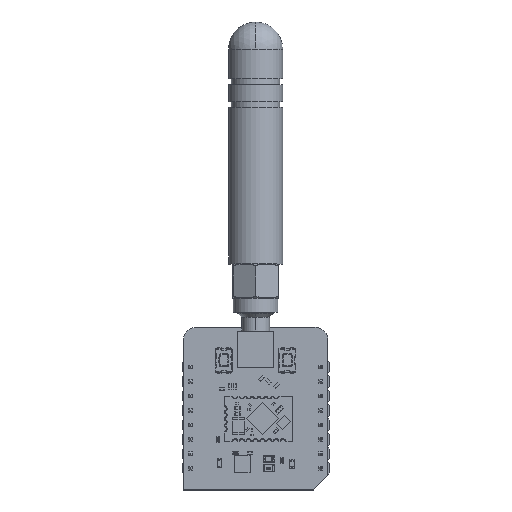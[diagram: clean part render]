
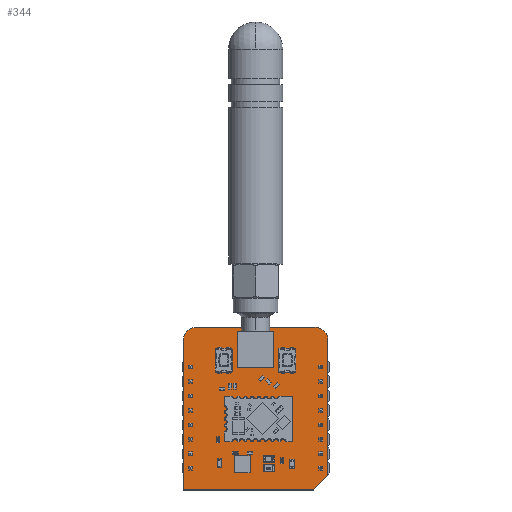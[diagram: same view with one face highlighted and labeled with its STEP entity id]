
A CAD part, top view. The second image highlights one B-rep face of the part: STEP entity #344.
In plain terms, the highlighted planar face has unit normal (0, 0, 1).
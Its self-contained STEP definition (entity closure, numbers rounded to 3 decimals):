
#115 = VERTEX_POINT('',#116);
#116 = CARTESIAN_POINT('',(-1.27,-3.81,0.));
#122 = EDGE_CURVE('',#115,#123,#125,.T.);
#123 = VERTEX_POINT('',#124);
#124 = CARTESIAN_POINT('',(-1.27,22.479,0.));
#125 = LINE('',#126,#127);
#126 = CARTESIAN_POINT('',(-1.27,-3.81,0.));
#127 = VECTOR('',#128,1.);
#128 = DIRECTION('',(0.,1.,0.));
#153 = EDGE_CURVE('',#123,#154,#156,.T.);
#154 = VERTEX_POINT('',#155);
#155 = CARTESIAN_POINT('',(1.016,24.765,0.));
#156 = CIRCLE('',#157,2.288);
#157 = AXIS2_PLACEMENT_3D('',#158,#159,#160);
#158 = CARTESIAN_POINT('',(1.018,22.477,0.));
#159 = DIRECTION('',(0.,0.,-1.));
#160 = DIRECTION('',(-1.,0.001,0.));
#186 = EDGE_CURVE('',#154,#187,#189,.T.);
#187 = VERTEX_POINT('',#188);
#188 = CARTESIAN_POINT('',(21.844,24.765,0.));
#189 = LINE('',#190,#191);
#190 = CARTESIAN_POINT('',(1.016,24.765,0.));
#191 = VECTOR('',#192,1.);
#192 = DIRECTION('',(1.,0.,0.));
#217 = EDGE_CURVE('',#187,#218,#220,.T.);
#218 = VERTEX_POINT('',#219);
#219 = CARTESIAN_POINT('',(24.13,22.479,0.));
#220 = CIRCLE('',#221,2.288);
#221 = AXIS2_PLACEMENT_3D('',#222,#223,#224);
#222 = CARTESIAN_POINT('',(21.842,22.477,0.));
#223 = DIRECTION('',(0.,0.,-1.));
#224 = DIRECTION('',(0.001,1.,0.));
#250 = EDGE_CURVE('',#218,#251,#253,.T.);
#251 = VERTEX_POINT('',#252);
#252 = CARTESIAN_POINT('',(24.13,-1.27,0.));
#253 = LINE('',#254,#255);
#254 = CARTESIAN_POINT('',(24.13,22.479,0.));
#255 = VECTOR('',#256,1.);
#256 = DIRECTION('',(0.,-1.,0.));
#281 = EDGE_CURVE('',#251,#282,#284,.T.);
#282 = VERTEX_POINT('',#283);
#283 = CARTESIAN_POINT('',(21.59,-3.81,0.));
#284 = LINE('',#285,#286);
#285 = CARTESIAN_POINT('',(24.13,-1.27,0.));
#286 = VECTOR('',#287,1.);
#287 = DIRECTION('',(-0.707,-0.707,0.));
#312 = EDGE_CURVE('',#282,#115,#313,.T.);
#313 = LINE('',#314,#315);
#314 = CARTESIAN_POINT('',(21.59,-3.81,0.));
#315 = VECTOR('',#316,1.);
#316 = DIRECTION('',(-1.,0.,0.));
#344 = ADVANCED_FACE('',(#345),#354,.T.);
#345 = FACE_BOUND('',#346,.F.);
#346 = EDGE_LOOP('',(#347,#348,#349,#350,#351,#352,#353));
#347 = ORIENTED_EDGE('',*,*,#122,.T.);
#348 = ORIENTED_EDGE('',*,*,#153,.T.);
#349 = ORIENTED_EDGE('',*,*,#186,.T.);
#350 = ORIENTED_EDGE('',*,*,#217,.T.);
#351 = ORIENTED_EDGE('',*,*,#250,.T.);
#352 = ORIENTED_EDGE('',*,*,#281,.T.);
#353 = ORIENTED_EDGE('',*,*,#312,.T.);
#354 = PLANE('',#355);
#355 = AXIS2_PLACEMENT_3D('',#356,#357,#358);
#356 = CARTESIAN_POINT('',(-1.27,-3.81,0.));
#357 = DIRECTION('',(0.,0.,1.));
#358 = DIRECTION('',(1.,0.,0.));
